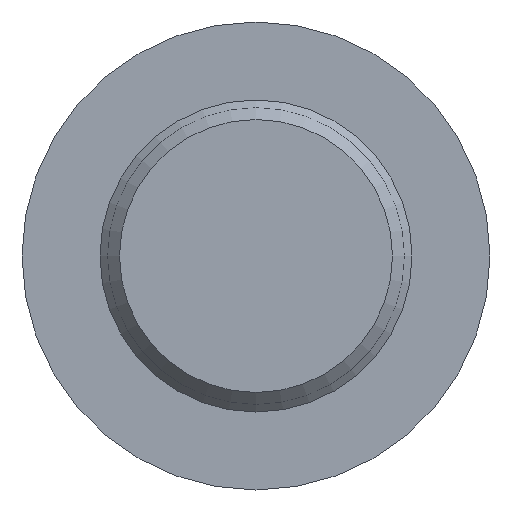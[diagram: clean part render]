
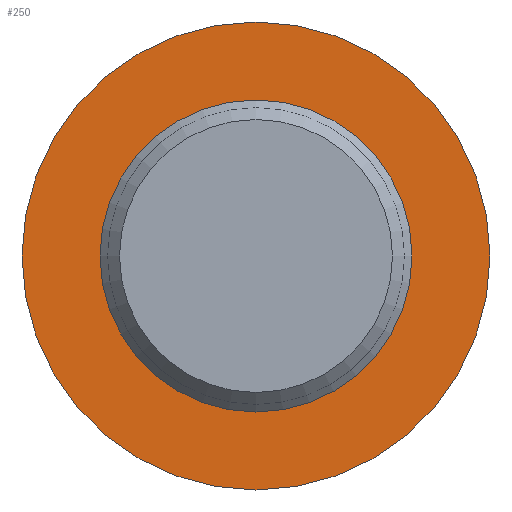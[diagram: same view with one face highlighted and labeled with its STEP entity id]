
A CAD part, front view. The second image highlights one B-rep face of the part: STEP entity #250.
In plain terms, the highlighted planar face has unit normal (0, -1, 0).
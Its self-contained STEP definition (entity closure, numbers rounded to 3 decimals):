
#17=FACE_BOUND('',#61,.T.);
#30=PLANE('',#303);
#43=FACE_OUTER_BOUND('',#60,.T.);
#60=EDGE_LOOP('',(#214,#215));
#61=EDGE_LOOP('',(#216,#217));
#100=CIRCLE('',#301,4.);
#101=CIRCLE('',#302,4.);
#102=CIRCLE('',#304,6.);
#103=CIRCLE('',#305,6.);
#126=VERTEX_POINT('',#456);
#127=VERTEX_POINT('',#457);
#128=VERTEX_POINT('',#462);
#129=VERTEX_POINT('',#463);
#157=EDGE_CURVE('',#126,#127,#100,.T.);
#158=EDGE_CURVE('',#127,#126,#101,.T.);
#160=EDGE_CURVE('',#128,#129,#102,.T.);
#161=EDGE_CURVE('',#129,#128,#103,.T.);
#214=ORIENTED_EDGE('',*,*,#160,.F.);
#215=ORIENTED_EDGE('',*,*,#161,.F.);
#216=ORIENTED_EDGE('',*,*,#157,.T.);
#217=ORIENTED_EDGE('',*,*,#158,.T.);
#250=ADVANCED_FACE('',(#43,#17),#30,.T.);
#301=AXIS2_PLACEMENT_3D('',#458,#375,#376);
#302=AXIS2_PLACEMENT_3D('',#459,#377,#378);
#303=AXIS2_PLACEMENT_3D('',#461,#380,#381);
#304=AXIS2_PLACEMENT_3D('',#464,#382,#383);
#305=AXIS2_PLACEMENT_3D('',#465,#384,#385);
#375=DIRECTION('center_axis',(0.,1.,0.));
#376=DIRECTION('ref_axis',(1.,0.,0.));
#377=DIRECTION('center_axis',(0.,1.,0.));
#378=DIRECTION('ref_axis',(1.,0.,0.));
#380=DIRECTION('center_axis',(0.,-1.,0.));
#381=DIRECTION('ref_axis',(0.,0.,-1.));
#382=DIRECTION('center_axis',(0.,1.,0.));
#383=DIRECTION('ref_axis',(1.,0.,0.));
#384=DIRECTION('center_axis',(0.,1.,0.));
#385=DIRECTION('ref_axis',(1.,0.,0.));
#456=CARTESIAN_POINT('',(0.,-440.,4.));
#457=CARTESIAN_POINT('',(0.,-440.,-4.));
#458=CARTESIAN_POINT('Origin',(0.,-440.,0.));
#459=CARTESIAN_POINT('Origin',(0.,-440.,0.));
#461=CARTESIAN_POINT('Origin',(0.,-440.,6.));
#462=CARTESIAN_POINT('',(0.,-440.,6.));
#463=CARTESIAN_POINT('',(0.,-440.,-6.));
#464=CARTESIAN_POINT('Origin',(0.,-440.,0.));
#465=CARTESIAN_POINT('Origin',(0.,-440.,0.));
